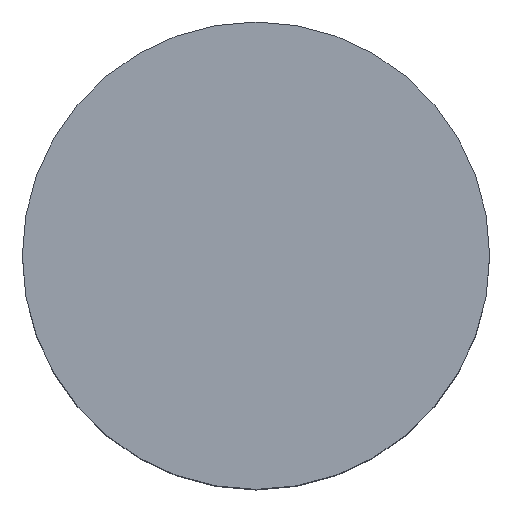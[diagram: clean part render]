
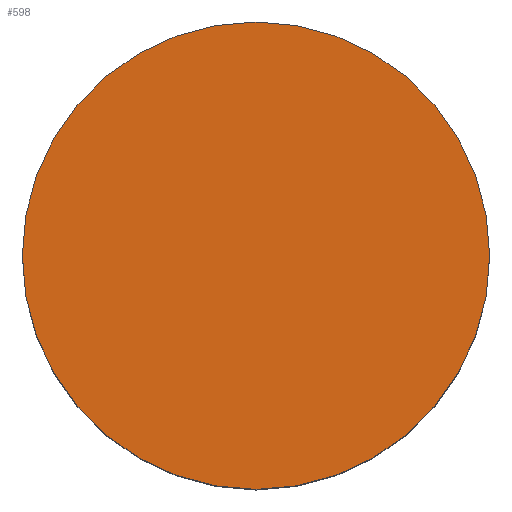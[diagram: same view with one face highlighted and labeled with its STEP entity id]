
A CAD part, top view. The second image highlights one B-rep face of the part: STEP entity #598.
In plain terms, the highlighted planar face has unit normal (0, 0, 1).
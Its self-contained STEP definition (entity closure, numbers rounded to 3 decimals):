
#45 = EDGE_LOOP ( 'NONE', ( #292, #1014 ) ) ;
#51 = VERTEX_POINT ( 'NONE', #238 ) ;
#144 = AXIS2_PLACEMENT_3D ( 'NONE', #934, #927, #921 ) ;
#238 = CARTESIAN_POINT ( 'NONE',  ( -25., 0., 10. ) ) ;
#285 = CARTESIAN_POINT ( 'NONE',  ( 0., 0., 10. ) ) ;
#292 = ORIENTED_EDGE ( 'NONE', *, *, #678, .T. ) ;
#318 = CIRCLE ( 'NONE', #973, 25. ) ;
#350 = EDGE_CURVE ( 'NONE', #51, #701, #766, .T. ) ;
#358 = CARTESIAN_POINT ( 'NONE',  ( 25., 0., 10. ) ) ;
#566 = DIRECTION ( 'NONE',  ( 1., 0., 0. ) ) ;
#571 = DIRECTION ( 'NONE',  ( 0., 0., 1. ) ) ;
#598 = ADVANCED_FACE ( 'NONE', ( #752 ), #1031, .F. ) ;
#635 = AXIS2_PLACEMENT_3D ( 'NONE', #798, #789, #777 ) ;
#678 = EDGE_CURVE ( 'NONE', #701, #51, #318, .T. ) ;
#701 = VERTEX_POINT ( 'NONE', #358 ) ;
#752 = FACE_OUTER_BOUND ( 'NONE', #45, .T. ) ;
#766 = CIRCLE ( 'NONE', #635, 25. ) ;
#777 = DIRECTION ( 'NONE',  ( 1., 0., 0. ) ) ;
#789 = DIRECTION ( 'NONE',  ( 0., 0., 1. ) ) ;
#798 = CARTESIAN_POINT ( 'NONE',  ( 0., 0., 10. ) ) ;
#921 = DIRECTION ( 'NONE',  ( -1., 0., 0. ) ) ;
#927 = DIRECTION ( 'NONE',  ( 0., 0., -1. ) ) ;
#934 = CARTESIAN_POINT ( 'NONE',  ( -25., 0., 10. ) ) ;
#973 = AXIS2_PLACEMENT_3D ( 'NONE', #285, #571, #566 ) ;
#1014 = ORIENTED_EDGE ( 'NONE', *, *, #350, .T. ) ;
#1031 = PLANE ( 'NONE',  #144 ) ;
